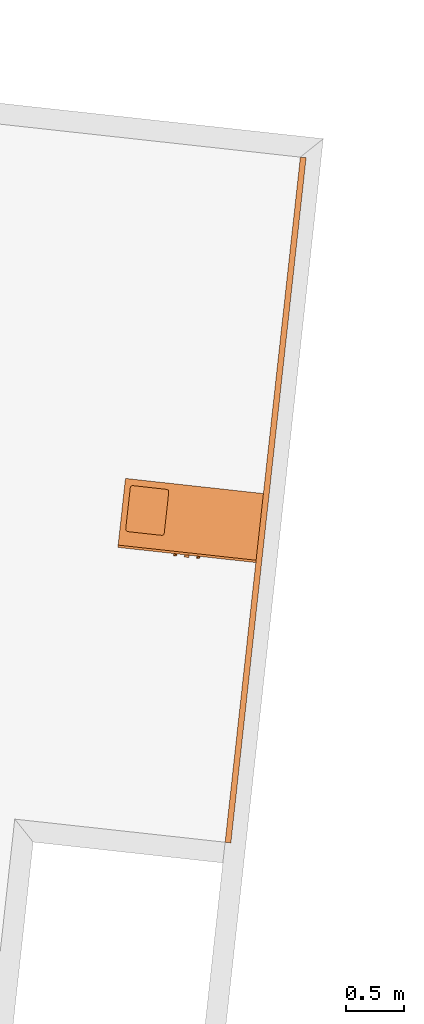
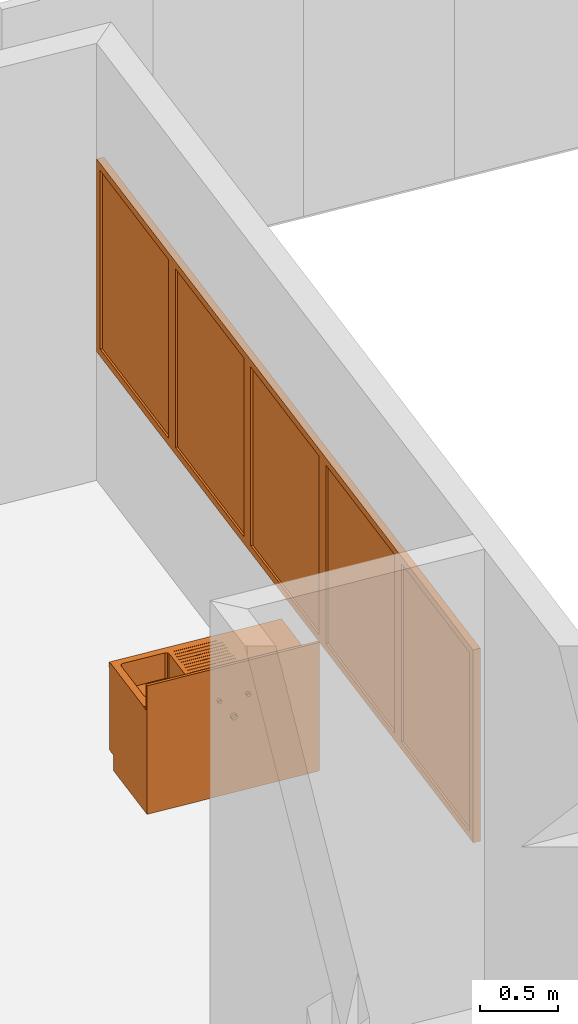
# One storey, part 48 of 52: 2 proxies.
"""IFC2X3 building model written with IfcOpenShell, lengths in metres."""

from ifc_helpers import new_model, entity, si_unit, converted_unit, derived_unit, money_unit, direction, frame, origin_with_axes, place, context, subcontext, project, spatial, open_shell, faceted_brep, surface_model, material, type_object, element, save


model = new_model("IFC2X3")

# Units and contexts
model_context = context("Model", 3, precision=1e-05, world=origin_with_axes(), true_north=direction((0.0, 1.0)))
body_context = subcontext(model_context, "Body", "Model", "MODEL_VIEW")
ifc_project = project(units=[si_unit("LENGTHUNIT", "METRE"), si_unit("AREAUNIT", "SQUARE_METRE"), si_unit("VOLUMEUNIT", "CUBIC_METRE"), converted_unit("PLANEANGLEUNIT", "DEGREE", entity("IfcPlaneAngleMeasure", 0.0174532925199), si_unit("PLANEANGLEUNIT", "RADIAN"), dimensions=[0, 0, 0, 0, 0, 0, 0]), money_unit("CHF"), converted_unit("TIMEUNIT", "Year", entity("IfcTimeMeasure", 31556926.0), si_unit("TIMEUNIT", "SECOND"), dimensions=[0, 0, 1, 0, 0, 0, 0]), si_unit("MASSUNIT", "GRAM", prefix="KILO"), si_unit("THERMODYNAMICTEMPERATUREUNIT", "DEGREE_CELSIUS"), si_unit("LUMINOUSINTENSITYUNIT", "LUMEN"), si_unit("ENERGYUNIT", "JOULE", prefix="MEGA"), derived_unit("THERMALCONDUCTANCEUNIT", [(si_unit("POWERUNIT", "WATT"), 1), (si_unit("LENGTHUNIT", "METRE"), -1), (si_unit("THERMODYNAMICTEMPERATUREUNIT", "KELVIN"), -1)]), derived_unit("SPECIFICHEATCAPACITYUNIT", [(si_unit("ENERGYUNIT", "JOULE"), 1), (si_unit("MASSUNIT", "GRAM", prefix="KILO"), -1), (si_unit("THERMODYNAMICTEMPERATUREUNIT", "KELVIN"), -1)]), derived_unit("MASSDENSITYUNIT", [(si_unit("MASSUNIT", "GRAM", prefix="KILO"), 1), (si_unit("VOLUMEUNIT", "CUBIC_METRE"), -1)])], contexts=[model_context])

# Site, building, storey
site_placement = place(None, frame((0.0, 0.0, 0.0), z_axis=(0.0, 0.0, 1.0), x_axis=(-0.177771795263, -0.984071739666, 0.0)))
site = spatial("IfcSite", under=ifc_project, at=site_placement, Name="Site", CompositionType="ELEMENT")
building_placement = place(site_placement, origin_with_axes())
building = spatial("IfcBuilding", under=site, at=building_placement, Name="Bâtiment", CompositionType="ELEMENT")
storey_placement = place(building_placement, frame((0.0, 0.0, 3.2), z_axis=(0.0, 0.0, 1.0), x_axis=(1.0, 0.0, 0.0)))
storey = spatial("IfcBuildingStorey", under=building, at=storey_placement, Name="R+1", CompositionType="ELEMENT", Elevation=3.2)

# Proxies
ifc_material = material(Name="Matériau de construction IFC")
building_element_proxy_type_1 = type_object("IfcBuildingElementProxyType", Name="Elément simple avec deux portes 21", PredefinedType="NOTDEFINED")
proxy_1_placement = place(storey_placement, frame((102.710690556, -150.00629147, 0.0), z_axis=(0.0, 0.0, 1.0), x_axis=(0.0692341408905, -0.997600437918, 0.0)))
element("IfcBuildingElementProxy", 1, at=proxy_1_placement, inside=storey, type_object=building_element_proxy_type_1, material=ifc_material, Name="evier-maitres", context=body_context, shape_type="SurfaceModel", body=[
    surface_model("IfcShellBasedSurfaceModel", [(-0.5, 0.600000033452, 0.733), (-0.5, 0.620000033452, 0.733), (-0.496505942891, 0.620000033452, 0.733460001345), (-0.496505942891, 0.600000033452, 0.733460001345), (-0.503494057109, 0.600000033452, 0.733460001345), (-0.503494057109, 0.620000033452, 0.733460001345), (-0.49325, 0.620000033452, 0.734808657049), (-0.49325, 0.600000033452, 0.734808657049), (-0.50675, 0.600000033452, 0.734808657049), (-0.50675, 0.620000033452, 0.734808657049), (-0.490454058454, 0.620000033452, 0.736954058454), (-0.490454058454, 0.600000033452, 0.736954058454), (-0.509545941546, 0.600000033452, 0.736954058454), (-0.509545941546, 0.620000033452, 0.736954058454), (-0.488308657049, 0.620000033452, 0.73975), (-0.488308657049, 0.600000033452, 0.73975), (-0.511691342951, 0.600000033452, 0.73975), (-0.511691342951, 0.620000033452, 0.73975), (-0.486960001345, 0.620000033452, 0.743005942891), (-0.486960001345, 0.600000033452, 0.743005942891), (-0.513039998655, 0.600000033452, 0.743005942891), (-0.513039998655, 0.620000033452, 0.743005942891), (-0.4865, 0.620000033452, 0.7465), (-0.4865, 0.600000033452, 0.7465), (-0.5135, 0.600000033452, 0.7465), (-0.5135, 0.620000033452, 0.7465), (-0.486960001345, 0.620000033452, 0.749994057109), (-0.486960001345, 0.600000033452, 0.749994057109), (-0.513039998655, 0.600000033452, 0.749994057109), (-0.513039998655, 0.620000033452, 0.749994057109), (-0.488308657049, 0.620000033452, 0.75325), (-0.488308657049, 0.600000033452, 0.75325), (-0.511691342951, 0.600000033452, 0.75325), (-0.511691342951, 0.620000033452, 0.75325), (-0.490454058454, 0.620000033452, 0.756045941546), (-0.490454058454, 0.600000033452, 0.756045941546), (-0.509545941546, 0.600000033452, 0.756045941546), (-0.509545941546, 0.620000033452, 0.756045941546), (-0.49325, 0.620000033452, 0.758191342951), (-0.49325, 0.600000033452, 0.758191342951), (-0.50675, 0.600000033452, 0.758191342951), (-0.50675, 0.620000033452, 0.758191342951), (-0.496505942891, 0.620000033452, 0.759539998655), (-0.496505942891, 0.600000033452, 0.759539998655), (-0.503494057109, 0.600000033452, 0.759539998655), (-0.503494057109, 0.620000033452, 0.759539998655), (-0.5, 0.620000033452, 0.76), (-0.5, 0.600000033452, 0.76)], [open_shell([[[0, 1, 2, 3]], [[4, 5, 1, 0]], [[3, 2, 6, 7]], [[8, 9, 5, 4]], [[7, 6, 10, 11]], [[12, 13, 9, 8]], [[11, 10, 14, 15]], [[16, 17, 13, 12]], [[15, 14, 18, 19]], [[20, 21, 17, 16]], [[19, 18, 22, 23]], [[24, 25, 21, 20]], [[23, 22, 26, 27]], [[28, 29, 25, 24]], [[27, 26, 30, 31]], [[32, 33, 29, 28]], [[31, 30, 34, 35]], [[36, 37, 33, 32]], [[35, 34, 38, 39]], [[40, 41, 37, 36]], [[39, 38, 42, 43]], [[44, 45, 41, 40]], [[43, 42, 46, 47]], [[47, 46, 45, 44]]])]),
    surface_model("IfcShellBasedSurfaceModel", [(-0.7, 0.600000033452, 0.733), (-0.7, 0.620000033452, 0.733), (-0.696505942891, 0.620000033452, 0.733460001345), (-0.696505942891, 0.600000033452, 0.733460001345), (-0.703494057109, 0.600000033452, 0.733460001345), (-0.703494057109, 0.620000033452, 0.733460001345), (-0.69325, 0.620000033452, 0.734808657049), (-0.69325, 0.600000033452, 0.734808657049), (-0.70675, 0.600000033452, 0.734808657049), (-0.70675, 0.620000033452, 0.734808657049), (-0.690454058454, 0.620000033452, 0.736954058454), (-0.690454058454, 0.600000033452, 0.736954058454), (-0.709545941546, 0.600000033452, 0.736954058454), (-0.709545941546, 0.620000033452, 0.736954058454), (-0.688308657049, 0.620000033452, 0.73975), (-0.688308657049, 0.600000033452, 0.73975), (-0.711691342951, 0.600000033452, 0.73975), (-0.711691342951, 0.620000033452, 0.73975), (-0.686960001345, 0.620000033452, 0.743005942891), (-0.686960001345, 0.600000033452, 0.743005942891), (-0.713039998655, 0.600000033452, 0.743005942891), (-0.713039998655, 0.620000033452, 0.743005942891), (-0.6865, 0.620000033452, 0.7465), (-0.6865, 0.600000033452, 0.7465), (-0.7135, 0.600000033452, 0.7465), (-0.7135, 0.620000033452, 0.7465), (-0.686960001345, 0.620000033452, 0.749994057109), (-0.686960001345, 0.600000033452, 0.749994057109), (-0.713039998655, 0.600000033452, 0.749994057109), (-0.713039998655, 0.620000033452, 0.749994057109), (-0.688308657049, 0.620000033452, 0.75325), (-0.688308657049, 0.600000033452, 0.75325), (-0.711691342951, 0.600000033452, 0.75325), (-0.711691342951, 0.620000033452, 0.75325), (-0.690454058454, 0.620000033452, 0.756045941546), (-0.690454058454, 0.600000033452, 0.756045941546), (-0.709545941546, 0.600000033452, 0.756045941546), (-0.709545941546, 0.620000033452, 0.756045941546), (-0.69325, 0.620000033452, 0.758191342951), (-0.69325, 0.600000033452, 0.758191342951), (-0.70675, 0.600000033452, 0.758191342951), (-0.70675, 0.620000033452, 0.758191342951), (-0.696505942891, 0.620000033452, 0.759539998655), (-0.696505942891, 0.600000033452, 0.759539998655), (-0.703494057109, 0.600000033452, 0.759539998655), (-0.703494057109, 0.620000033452, 0.759539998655), (-0.7, 0.620000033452, 0.76), (-0.7, 0.600000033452, 0.76)], [open_shell([[[0, 1, 2, 3]], [[4, 5, 1, 0]], [[3, 2, 6, 7]], [[8, 9, 5, 4]], [[7, 6, 10, 11]], [[12, 13, 9, 8]], [[11, 10, 14, 15]], [[16, 17, 13, 12]], [[15, 14, 18, 19]], [[20, 21, 17, 16]], [[19, 18, 22, 23]], [[24, 25, 21, 20]], [[23, 22, 26, 27]], [[28, 29, 25, 24]], [[27, 26, 30, 31]], [[32, 33, 29, 28]], [[31, 30, 34, 35]], [[36, 37, 33, 32]], [[35, 34, 38, 39]], [[40, 41, 37, 36]], [[39, 38, 42, 43]], [[44, 45, 41, 40]], [[43, 42, 46, 47]], [[47, 46, 45, 44]]])]),
    surface_model("IfcShellBasedSurfaceModel", [(-0.6, 0.600000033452, 0.579), (-0.6, 0.620000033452, 0.579), (-0.594564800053, 0.620000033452, 0.579715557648), (-0.594564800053, 0.600000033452, 0.579715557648), (-0.605435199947, 0.600000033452, 0.579715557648), (-0.605435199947, 0.620000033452, 0.579715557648), (-0.5895, 0.620000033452, 0.581813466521), (-0.5895, 0.600000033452, 0.581813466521), (-0.6105, 0.600000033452, 0.581813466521), (-0.6105, 0.620000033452, 0.581813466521), (-0.585150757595, 0.620000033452, 0.585150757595), (-0.585150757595, 0.600000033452, 0.585150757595), (-0.614849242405, 0.600000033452, 0.585150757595), (-0.614849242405, 0.620000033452, 0.585150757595), (-0.581813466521, 0.620000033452, 0.5895), (-0.581813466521, 0.600000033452, 0.5895), (-0.618186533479, 0.600000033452, 0.5895), (-0.618186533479, 0.620000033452, 0.5895), (-0.579715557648, 0.620000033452, 0.594564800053), (-0.579715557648, 0.600000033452, 0.594564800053), (-0.620284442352, 0.600000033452, 0.594564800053), (-0.620284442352, 0.620000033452, 0.594564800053), (-0.579, 0.620000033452, 0.6), (-0.579, 0.600000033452, 0.6), (-0.621, 0.600000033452, 0.6), (-0.621, 0.620000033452, 0.6), (-0.579715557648, 0.620000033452, 0.605435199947), (-0.579715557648, 0.600000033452, 0.605435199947), (-0.620284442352, 0.600000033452, 0.605435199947), (-0.620284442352, 0.620000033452, 0.605435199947), (-0.581813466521, 0.620000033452, 0.6105), (-0.581813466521, 0.600000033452, 0.6105), (-0.618186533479, 0.600000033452, 0.6105), (-0.618186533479, 0.620000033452, 0.6105), (-0.585150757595, 0.620000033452, 0.614849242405), (-0.585150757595, 0.600000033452, 0.614849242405), (-0.614849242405, 0.600000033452, 0.614849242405), (-0.614849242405, 0.620000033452, 0.614849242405), (-0.5895, 0.620000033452, 0.618186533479), (-0.5895, 0.600000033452, 0.618186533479), (-0.6105, 0.600000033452, 0.618186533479), (-0.6105, 0.620000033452, 0.618186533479), (-0.594564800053, 0.620000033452, 0.620284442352), (-0.594564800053, 0.600000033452, 0.620284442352), (-0.605435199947, 0.600000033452, 0.620284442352), (-0.605435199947, 0.620000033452, 0.620284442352), (-0.6, 0.620000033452, 0.621), (-0.6, 0.600000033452, 0.621)], [open_shell([[[0, 1, 2, 3]], [[4, 5, 1, 0]], [[3, 2, 6, 7]], [[8, 9, 5, 4]], [[7, 6, 10, 11]], [[12, 13, 9, 8]], [[11, 10, 14, 15]], [[16, 17, 13, 12]], [[15, 14, 18, 19]], [[20, 21, 17, 16]], [[19, 18, 22, 23]], [[24, 25, 21, 20]], [[23, 22, 26, 27]], [[28, 29, 25, 24]], [[27, 26, 30, 31]], [[32, 33, 29, 28]], [[31, 30, 34, 35]], [[36, 37, 33, 32]], [[35, 34, 38, 39]], [[40, 41, 37, 36]], [[39, 38, 42, 43]], [[44, 45, 41, 40]], [[43, 42, 46, 47]], [[47, 46, 45, 44]]])]),
    faceted_brep([(0.0, 0.07, 0.0), (0.0, 0.07, 0.12), (-1.2, 0.07, 0.12), (-1.2, 0.07, 0.0), (0.0, 0.600000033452, 0.0), (0.0, 0.600000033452, 0.12), (-1.2, 0.600000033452, 0.12), (-1.2, 0.600000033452, 0.0)], [[[0, 1, 2, 3]], [[4, 5, 1, 0]], [[1, 5, 6, 2]], [[3, 2, 6, 7]], [[0, 3, 7, 4]], [[7, 6, 5, 4]]]),
    faceted_brep([(0.0, 0.02, 0.12), (0.0, 0.02, 0.14), (-0.02, 0.02, 0.14), (-0.02, 0.02, 0.12), (0.0, 0.600000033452, 0.12), (0.0, 0.600000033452, 0.14), (-0.02, 0.600000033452, 0.14), (-1.18, 0.600000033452, 0.14), (-1.2, 0.600000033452, 0.14), (-1.2, 0.02, 0.14), (-1.18, 0.02, 0.14), (-1.18, 0.02, 0.12), (-1.2, 0.02, 0.12), (-1.2, 0.600000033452, 0.12), (-1.18, 0.600000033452, 0.12), (-0.02, 0.600000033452, 0.12)], [[[0, 1, 2, 3]], [[4, 5, 1, 0]], [[1, 5, 6, 7, 8, 9, 10, 2]], [[3, 2, 10, 11]], [[0, 3, 11, 12, 13, 14, 15, 4]], [[15, 6, 5, 4]], [[14, 7, 6, 15]], [[13, 8, 7, 14]], [[12, 9, 8, 13]], [[11, 10, 9, 12]]]),
    faceted_brep([(0.0, 0.02, 0.14), (0.0, 0.02, 0.76), (-0.02, 0.02, 0.76), (-0.02, 0.02, 0.14), (0.0, 0.600000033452, 0.14), (0.0, 0.600000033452, 0.76), (-1.2, 0.600000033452, 0.76), (-1.2, 0.02, 0.76), (-1.18, 0.02, 0.76), (-1.18, 0.580000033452, 0.76), (-0.02, 0.580000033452, 0.76), (-0.02, 0.580000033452, 0.14), (-1.18, 0.580000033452, 0.14), (-1.18, 0.02, 0.14), (-1.2, 0.02, 0.14), (-1.2, 0.600000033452, 0.14)], [[[0, 1, 2, 3]], [[4, 5, 1, 0]], [[1, 5, 6, 7, 8, 9, 10, 2]], [[3, 2, 10, 11]], [[0, 3, 11, 12, 13, 14, 15, 4]], [[15, 6, 5, 4]], [[14, 7, 6, 15]], [[13, 8, 7, 14]], [[12, 9, 8, 13]], [[11, 10, 9, 12]]]),
    faceted_brep([(-1.18, 0.02, 0.41), (-1.18, 0.02, 0.43), (-1.18, 0.580000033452, 0.43), (-1.18, 0.580000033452, 0.41), (-0.02, 0.02, 0.41), (-0.02, 0.02, 0.43), (-0.02, 0.580000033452, 0.43), (-0.02, 0.580000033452, 0.41)], [[[0, 1, 2, 3]], [[4, 5, 1, 0]], [[1, 5, 6, 2]], [[3, 2, 6, 7]], [[0, 3, 7, 4]], [[7, 6, 5, 4]]]),
    surface_model("IfcShellBasedSurfaceModel", [(-0.07, 0.0550000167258, 0.605), (-0.07, 0.0550000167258, 0.8), (-0.365, 0.0550000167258, 0.8), (-0.365, 0.0550000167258, 0.605), (-0.06, 0.0576795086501, 0.605), (-0.06, 0.0576795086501, 0.8), (-0.379142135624, 0.0608578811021, 0.8), (-0.379142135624, 0.0608578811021, 0.605), (-0.385, 0.0750000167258, 0.605), (-0.385, 0.435000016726, 0.605), (-0.382320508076, 0.445000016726, 0.605), (-0.375, 0.452320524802, 0.605), (-0.365, 0.455000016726, 0.605), (-0.07, 0.455000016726, 0.605), (-0.06, 0.452320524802, 0.605), (-0.0526794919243, 0.445000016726, 0.605), (-0.05, 0.435000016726, 0.605), (-0.05, 0.0750000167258, 0.605), (-0.0526794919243, 0.0650000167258, 0.605), (-0.0526794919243, 0.0650000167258, 0.8), (-0.385, 0.0750000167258, 0.8), (-0.385, 0.435000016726, 0.8), (-0.382320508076, 0.445000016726, 0.8), (-0.375, 0.452320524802, 0.8), (-0.365, 0.455000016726, 0.8), (-0.07, 0.455000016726, 0.8), (-0.06, 0.452320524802, 0.8), (-0.0526794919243, 0.445000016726, 0.8), (-0.05, 0.435000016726, 0.8), (-0.05, 0.0750000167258, 0.8)], [open_shell([[[0, 1, 2, 3]], [[4, 5, 1, 0]], [[3, 2, 6, 7]], [[0, 3, 7, 8, 9, 10, 11, 12, 13, 14, 15, 16, 17, 18, 4]], [[18, 19, 5, 4]], [[7, 6, 20, 8]], [[8, 20, 21, 9]], [[9, 21, 22, 10]], [[10, 22, 23, 11]], [[11, 23, 24, 12]], [[12, 24, 25, 13]], [[13, 25, 26, 14]], [[14, 26, 27, 15]], [[15, 27, 28, 16]], [[16, 28, 29, 17]], [[17, 29, 19, 18]]])]),
    faceted_brep([(-0.02, 0.00500001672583, 0.8), (-0.02, 0.00500001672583, 0.805), (-0.78, 0.00500001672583, 0.805), (-0.78, 0.00500001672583, 0.8), (-0.00999999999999, 0.00767950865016, 0.8), (-0.00999999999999, 0.00767950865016, 0.805), (-0.00267949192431, 0.0150000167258, 0.805), (0.0, 0.0250000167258, 0.805), (0.0, 0.535000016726, 0.805), (-0.00267949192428, 0.545000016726, 0.805), (-0.01, 0.552320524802, 0.805), (-0.02, 0.555000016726, 0.805), (-0.78, 0.555000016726, 0.805), (-0.79, 0.552320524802, 0.805), (-0.797320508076, 0.545000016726, 0.805), (-0.8, 0.535000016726, 0.805), (-0.8, 0.0250000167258, 0.805), (-0.794142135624, 0.0108578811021, 0.805), (-0.07, 0.0550000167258, 0.805), (-0.365, 0.0550000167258, 0.805), (-0.379142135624, 0.0608578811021, 0.805), (-0.385, 0.0750000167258, 0.805), (-0.385, 0.435000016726, 0.805), (-0.382320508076, 0.445000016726, 0.805), (-0.375, 0.452320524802, 0.805), (-0.365, 0.455000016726, 0.805), (-0.07, 0.455000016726, 0.805), (-0.06, 0.452320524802, 0.805), (-0.0526794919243, 0.445000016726, 0.805), (-0.05, 0.435000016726, 0.805), (-0.05, 0.0750000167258, 0.805), (-0.0526794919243, 0.0650000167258, 0.805), (-0.06, 0.0576795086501, 0.805), (-0.794142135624, 0.0108578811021, 0.8), (-0.8, 0.0250000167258, 0.8), (-0.8, 0.535000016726, 0.8), (-0.797320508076, 0.545000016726, 0.8), (-0.79, 0.552320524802, 0.8), (-0.78, 0.555000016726, 0.8), (-0.02, 0.555000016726, 0.8), (-0.01, 0.552320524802, 0.8), (-0.00267949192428, 0.545000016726, 0.8), (0.0, 0.535000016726, 0.8), (0.0, 0.0250000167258, 0.8), (-0.00267949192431, 0.0150000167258, 0.8), (-0.07, 0.0550000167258, 0.8), (-0.06, 0.0576795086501, 0.8), (-0.0526794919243, 0.0650000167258, 0.8), (-0.05, 0.0750000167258, 0.8), (-0.05, 0.435000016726, 0.8), (-0.0526794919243, 0.445000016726, 0.8), (-0.06, 0.452320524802, 0.8), (-0.07, 0.455000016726, 0.8), (-0.365, 0.455000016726, 0.8), (-0.375, 0.452320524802, 0.8), (-0.382320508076, 0.445000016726, 0.8), (-0.385, 0.435000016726, 0.8), (-0.385, 0.0750000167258, 0.8), (-0.379142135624, 0.0608578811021, 0.8), (-0.365, 0.0550000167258, 0.8)], [[[0, 1, 2, 3]], [[4, 5, 1, 0]], [[1, 5, 6, 7, 8, 9, 10, 11, 12, 13, 14, 15, 16, 17, 2], [18, 19, 20, 21, 22, 23, 24, 25, 26, 27, 28, 29, 30, 31, 32]], [[3, 2, 17, 33]], [[0, 3, 33, 34, 35, 36, 37, 38, 39, 40, 41, 42, 43, 44, 4], [45, 46, 47, 48, 49, 50, 51, 52, 53, 54, 55, 56, 57, 58, 59]], [[44, 6, 5, 4]], [[43, 7, 6, 44]], [[42, 8, 7, 43]], [[41, 9, 8, 42]], [[40, 10, 9, 41]], [[39, 11, 10, 40]], [[38, 12, 11, 39]], [[37, 13, 12, 38]], [[36, 14, 13, 37]], [[35, 15, 14, 36]], [[34, 16, 15, 35]], [[33, 17, 16, 34]], [[59, 19, 18, 45]], [[58, 20, 19, 59]], [[57, 21, 20, 58]], [[56, 22, 21, 57]], [[55, 23, 22, 56]], [[54, 24, 23, 55]], [[53, 25, 24, 54]], [[52, 26, 25, 53]], [[51, 27, 26, 52]], [[50, 28, 27, 51]], [[49, 29, 28, 50]], [[48, 30, 29, 49]], [[47, 31, 30, 48]], [[46, 32, 31, 47]], [[45, 18, 32, 46]]]),
    faceted_brep([(-0.415, 0.0600000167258, 0.805), (-0.415, 0.0600000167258, 0.807), (-0.72, 0.0600000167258, 0.807), (-0.72, 0.0600000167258, 0.805), (-0.415, 0.0650000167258, 0.805), (-0.415, 0.0650000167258, 0.807), (-0.72, 0.0650000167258, 0.807), (-0.72, 0.0650000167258, 0.805)], [[[0, 1, 2, 3]], [[4, 5, 1, 0]], [[1, 5, 6, 2]], [[3, 2, 6, 7]], [[0, 3, 7, 4]], [[7, 6, 5, 4]]]),
    faceted_brep([(-0.415, 0.0925000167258, 0.805), (-0.415, 0.0925000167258, 0.807), (-0.75, 0.0925000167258, 0.807), (-0.75, 0.0925000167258, 0.805), (-0.415, 0.0975000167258, 0.805), (-0.415, 0.0975000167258, 0.807), (-0.75, 0.0975000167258, 0.807), (-0.75, 0.0975000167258, 0.805)], [[[0, 1, 2, 3]], [[4, 5, 1, 0]], [[1, 5, 6, 2]], [[3, 2, 6, 7]], [[0, 3, 7, 4]], [[7, 6, 5, 4]]]),
    faceted_brep([(-0.415, 0.125000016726, 0.805), (-0.415, 0.125000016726, 0.807), (-0.75, 0.125000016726, 0.807), (-0.75, 0.125000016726, 0.805), (-0.415, 0.130000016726, 0.805), (-0.415, 0.130000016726, 0.807), (-0.75, 0.130000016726, 0.807), (-0.75, 0.130000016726, 0.805)], [[[0, 1, 2, 3]], [[4, 5, 1, 0]], [[1, 5, 6, 2]], [[3, 2, 6, 7]], [[0, 3, 7, 4]], [[7, 6, 5, 4]]]),
    faceted_brep([(-0.415, 0.157500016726, 0.805), (-0.415, 0.157500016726, 0.807), (-0.75, 0.157500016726, 0.807), (-0.75, 0.157500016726, 0.805), (-0.415, 0.162500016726, 0.805), (-0.415, 0.162500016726, 0.807), (-0.75, 0.162500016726, 0.807), (-0.75, 0.162500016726, 0.805)], [[[0, 1, 2, 3]], [[4, 5, 1, 0]], [[1, 5, 6, 2]], [[3, 2, 6, 7]], [[0, 3, 7, 4]], [[7, 6, 5, 4]]]),
    faceted_brep([(-0.415, 0.190000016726, 0.805), (-0.415, 0.190000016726, 0.807), (-0.75, 0.190000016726, 0.807), (-0.75, 0.190000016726, 0.805), (-0.415, 0.195000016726, 0.805), (-0.415, 0.195000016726, 0.807), (-0.75, 0.195000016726, 0.807), (-0.75, 0.195000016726, 0.805)], [[[0, 1, 2, 3]], [[4, 5, 1, 0]], [[1, 5, 6, 2]], [[3, 2, 6, 7]], [[0, 3, 7, 4]], [[7, 6, 5, 4]]]),
    faceted_brep([(-0.415, 0.222500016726, 0.805), (-0.415, 0.222500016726, 0.807), (-0.75, 0.222500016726, 0.807), (-0.75, 0.222500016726, 0.805), (-0.415, 0.227500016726, 0.805), (-0.415, 0.227500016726, 0.807), (-0.75, 0.227500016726, 0.807), (-0.75, 0.227500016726, 0.805)], [[[0, 1, 2, 3]], [[4, 5, 1, 0]], [[1, 5, 6, 2]], [[3, 2, 6, 7]], [[0, 3, 7, 4]], [[7, 6, 5, 4]]]),
    faceted_brep([(-0.415, 0.255000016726, 0.805), (-0.415, 0.255000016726, 0.807), (-0.75, 0.255000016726, 0.807), (-0.75, 0.255000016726, 0.805), (-0.415, 0.260000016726, 0.805), (-0.415, 0.260000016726, 0.807), (-0.75, 0.260000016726, 0.807), (-0.75, 0.260000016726, 0.805)], [[[0, 1, 2, 3]], [[4, 5, 1, 0]], [[1, 5, 6, 2]], [[3, 2, 6, 7]], [[0, 3, 7, 4]], [[7, 6, 5, 4]]]),
    faceted_brep([(-0.415, 0.287500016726, 0.805), (-0.415, 0.287500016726, 0.807), (-0.75, 0.287500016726, 0.807), (-0.75, 0.287500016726, 0.805), (-0.415, 0.292500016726, 0.805), (-0.415, 0.292500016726, 0.807), (-0.75, 0.292500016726, 0.807), (-0.75, 0.292500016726, 0.805)], [[[0, 1, 2, 3]], [[4, 5, 1, 0]], [[1, 5, 6, 2]], [[3, 2, 6, 7]], [[0, 3, 7, 4]], [[7, 6, 5, 4]]]),
    faceted_brep([(-0.415, 0.320000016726, 0.805), (-0.415, 0.320000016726, 0.807), (-0.75, 0.320000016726, 0.807), (-0.75, 0.320000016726, 0.805), (-0.415, 0.325000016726, 0.805), (-0.415, 0.325000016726, 0.807), (-0.75, 0.325000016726, 0.807), (-0.75, 0.325000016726, 0.805)], [[[0, 1, 2, 3]], [[4, 5, 1, 0]], [[1, 5, 6, 2]], [[3, 2, 6, 7]], [[0, 3, 7, 4]], [[7, 6, 5, 4]]]),
    faceted_brep([(-0.415, 0.352500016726, 0.805), (-0.415, 0.352500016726, 0.807), (-0.75, 0.352500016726, 0.807), (-0.75, 0.352500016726, 0.805), (-0.415, 0.357500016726, 0.805), (-0.415, 0.357500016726, 0.807), (-0.75, 0.357500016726, 0.807), (-0.75, 0.357500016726, 0.805)], [[[0, 1, 2, 3]], [[4, 5, 1, 0]], [[1, 5, 6, 2]], [[3, 2, 6, 7]], [[0, 3, 7, 4]], [[7, 6, 5, 4]]]),
    faceted_brep([(-0.415, 0.385000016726, 0.805), (-0.415, 0.385000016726, 0.807), (-0.75, 0.385000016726, 0.807), (-0.75, 0.385000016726, 0.805), (-0.415, 0.390000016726, 0.805), (-0.415, 0.390000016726, 0.807), (-0.75, 0.390000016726, 0.807), (-0.75, 0.390000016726, 0.805)], [[[0, 1, 2, 3]], [[4, 5, 1, 0]], [[1, 5, 6, 2]], [[3, 2, 6, 7]], [[0, 3, 7, 4]], [[7, 6, 5, 4]]]),
    faceted_brep([(-0.415, 0.417500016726, 0.805), (-0.415, 0.417500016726, 0.807), (-0.75, 0.417500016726, 0.807), (-0.75, 0.417500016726, 0.805), (-0.415, 0.422500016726, 0.805), (-0.415, 0.422500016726, 0.807), (-0.75, 0.422500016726, 0.807), (-0.75, 0.422500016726, 0.805)], [[[0, 1, 2, 3]], [[4, 5, 1, 0]], [[1, 5, 6, 2]], [[3, 2, 6, 7]], [[0, 3, 7, 4]], [[7, 6, 5, 4]]]),
    faceted_brep([(-0.415, 0.450000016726, 0.805), (-0.415, 0.450000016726, 0.807), (-0.72, 0.450000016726, 0.807), (-0.72, 0.450000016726, 0.805), (-0.415, 0.455000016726, 0.805), (-0.415, 0.455000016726, 0.807), (-0.72, 0.455000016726, 0.807), (-0.72, 0.455000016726, 0.805)], [[[0, 1, 2, 3]], [[4, 5, 1, 0]], [[1, 5, 6, 2]], [[3, 2, 6, 7]], [[0, 3, 7, 4]], [[7, 6, 5, 4]]]),
    faceted_brep([(0.0, 0.0, 0.76), (0.0, 0.0, 0.8), (-1.2, 0.0, 0.8), (-1.2, 0.0, 0.76), (0.0, 0.600000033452, 0.76), (0.0, 0.600000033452, 0.8), (-1.2, 0.600000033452, 0.8), (-0.025, 0.0500000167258, 0.8), (-0.775, 0.0500000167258, 0.8), (-0.775, 0.535000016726, 0.8), (-0.025, 0.535000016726, 0.8), (-1.2, 0.600000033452, 0.76), (-0.025, 0.0500000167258, 0.76), (-0.025, 0.535000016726, 0.76), (-0.775, 0.535000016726, 0.76), (-0.775, 0.0500000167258, 0.76)], [[[0, 1, 2, 3]], [[4, 5, 1, 0]], [[1, 5, 6, 2], [7, 8, 9, 10]], [[3, 2, 6, 11]], [[0, 3, 11, 4], [12, 13, 14, 15]], [[11, 6, 5, 4]], [[15, 8, 7, 12]], [[14, 9, 8, 15]], [[13, 10, 9, 14]], [[12, 7, 10, 13]]]),
    faceted_brep([(0.0, 0.580000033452, 0.8), (0.0, 0.580000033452, 1.0), (-1.2, 0.580000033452, 1.0), (-1.2, 0.580000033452, 0.8), (0.0, 0.600000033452, 0.8), (0.0, 0.600000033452, 1.0), (-1.2, 0.600000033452, 1.0), (-1.2, 0.600000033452, 0.8)], [[[0, 1, 2, 3]], [[4, 5, 1, 0]], [[1, 5, 6, 2]], [[3, 2, 6, 7]], [[0, 3, 7, 4]], [[7, 6, 5, 4]]]),
    faceted_brep([(-0.00149999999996, 0.02, 0.1215), (-0.00149999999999, 0.0, 0.1215), (-0.5985, 0.0, 0.1215), (-0.5985, 0.02, 0.1215), (-0.00149999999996, 0.02, 0.7585), (-0.00149999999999, 0.0, 0.7585), (-0.5985, 0.0, 0.7585), (-0.5985, 0.02, 0.7585)], [[[0, 1, 2, 3]], [[4, 5, 1, 0]], [[1, 5, 6, 2]], [[3, 2, 6, 7]], [[0, 3, 7, 4]], [[7, 6, 5, 4]]]),
    faceted_brep([(-1.1985, 0.02, 0.1215), (-0.6015, 0.02, 0.1215), (-0.6015, 0.0, 0.1215), (-1.1985, 0.0, 0.1215), (-1.1985, 0.02, 0.7585), (-0.6015, 0.02, 0.7585), (-0.6015, 0.0, 0.7585), (-1.1985, 0.0, 0.7585)], [[[0, 1, 2, 3]], [[0, 4, 5, 1]], [[1, 5, 6, 2]], [[3, 2, 6, 7]], [[4, 0, 3, 7]], [[5, 4, 7, 6]]]),
])
building_element_proxy_type_2 = type_object("IfcBuildingElementProxyType", Name="Fenêtre horizontale à châssis multiples 21", PredefinedType="NOTDEFINED")
proxy_2_placement = place(storey_placement, frame((99.6953772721, -148.832342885, 1.0), z_axis=(0.0, 0.0, 1.0), x_axis=(0.997598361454, 0.0692640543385, 0.0)))
element("IfcBuildingElementProxy", 2, at=proxy_2_placement, inside=storey, type_object=building_element_proxy_type_2, material=ifc_material, Name="45", context=body_context, shape_type="SurfaceModel", body=[
    faceted_brep([(5.90462597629, -0.18, 1.445), (5.95962597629, -0.18, 1.445), (5.95962597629, -0.13, 1.445), (5.90462597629, -0.13, 1.445), (5.90462597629, -0.18, 0.055), (5.95962597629, -0.18, 0.055), (5.95962597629, -0.13, 0.055), (5.90462597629, -0.13, 0.055)], [[[0, 1, 2, 3]], [[0, 4, 5, 1]], [[1, 5, 6, 2]], [[3, 2, 6, 7]], [[4, 0, 3, 7]], [[5, 4, 7, 6]]]),
    faceted_brep([(0.055, -0.18, 0.055), (0.0, -0.18, 0.055), (0.0, -0.13, 0.055), (0.055, -0.13, 0.055), (0.055, -0.18, 1.445), (0.0, -0.18, 1.445), (0.0, -0.13, 1.445), (0.055, -0.13, 1.445)], [[[0, 1, 2, 3]], [[0, 4, 5, 1]], [[1, 5, 6, 2]], [[3, 2, 6, 7]], [[4, 0, 3, 7]], [[5, 4, 7, 6]]]),
    faceted_brep([(0.055, -0.18, 1.445), (0.0, -0.18, 1.445), (0.0, -0.13, 1.445), (0.055, -0.13, 1.445), (1.13692519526, -0.18, 1.445), (1.24692519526, -0.18, 1.445), (2.32885039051, -0.18, 1.445), (2.43885039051, -0.18, 1.445), (3.52077558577, -0.18, 1.445), (3.63077558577, -0.18, 1.445), (4.71270078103, -0.18, 1.445), (4.82270078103, -0.18, 1.445), (5.90462597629, -0.18, 1.445), (5.95962597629, -0.18, 1.445), (5.95962597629, -0.18, 1.5), (0.0, -0.18, 1.5), (0.0, -0.13, 1.5), (5.95962597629, -0.13, 1.5), (5.95962597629, -0.13, 1.445), (5.90462597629, -0.13, 1.445), (4.82270078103, -0.13, 1.445), (4.71270078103, -0.13, 1.445), (3.63077558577, -0.13, 1.445), (3.52077558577, -0.13, 1.445), (2.43885039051, -0.13, 1.445), (2.32885039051, -0.13, 1.445), (1.24692519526, -0.13, 1.445), (1.13692519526, -0.13, 1.445)], [[[0, 1, 2, 3]], [[0, 4, 5, 6, 7, 8, 9, 10, 11, 12, 13, 14, 15, 1]], [[1, 15, 16, 2]], [[3, 2, 16, 17, 18, 19, 20, 21, 22, 23, 24, 25, 26, 27]], [[4, 0, 3, 27]], [[5, 4, 27, 26]], [[6, 5, 26, 25]], [[7, 6, 25, 24]], [[8, 7, 24, 23]], [[9, 8, 23, 22]], [[10, 9, 22, 21]], [[11, 10, 21, 20]], [[12, 11, 20, 19]], [[13, 12, 19, 18]], [[14, 13, 18, 17]], [[15, 14, 17, 16]]]),
    faceted_brep([(1.13692519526, -0.18, 0.055), (1.24692519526, -0.18, 0.055), (1.24692519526, -0.13, 0.055), (1.13692519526, -0.13, 0.055), (0.055, -0.18, 0.055), (0.0, -0.18, 0.055), (0.0, -0.18, 0.0), (5.95962597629, -0.18, 0.0), (5.95962597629, -0.18, 0.055), (5.90462597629, -0.18, 0.055), (4.82270078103, -0.18, 0.055), (4.71270078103, -0.18, 0.055), (3.63077558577, -0.18, 0.055), (3.52077558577, -0.18, 0.055), (2.43885039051, -0.18, 0.055), (2.32885039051, -0.18, 0.055), (2.32885039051, -0.13, 0.055), (2.43885039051, -0.13, 0.055), (3.52077558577, -0.13, 0.055), (3.63077558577, -0.13, 0.055), (4.71270078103, -0.13, 0.055), (4.82270078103, -0.13, 0.055), (5.90462597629, -0.13, 0.055), (5.95962597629, -0.13, 0.055), (5.95962597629, -0.13, 0.0), (0.0, -0.13, 0.0), (0.0, -0.13, 0.055), (0.055, -0.13, 0.055)], [[[0, 1, 2, 3]], [[0, 4, 5, 6, 7, 8, 9, 10, 11, 12, 13, 14, 15, 1]], [[1, 15, 16, 2]], [[3, 2, 16, 17, 18, 19, 20, 21, 22, 23, 24, 25, 26, 27]], [[4, 0, 3, 27]], [[5, 4, 27, 26]], [[6, 5, 26, 25]], [[7, 6, 25, 24]], [[8, 7, 24, 23]], [[9, 8, 23, 22]], [[10, 9, 22, 21]], [[11, 10, 21, 20]], [[12, 11, 20, 19]], [[13, 12, 19, 18]], [[14, 13, 18, 17]], [[15, 14, 17, 16]]]),
    faceted_brep([(4.71270078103, -0.18, 0.055), (4.71270078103, -0.18, 1.445), (4.71270078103, -0.13, 1.445), (4.71270078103, -0.13, 0.055), (4.82270078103, -0.18, 0.055), (4.82270078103, -0.18, 1.445), (4.82270078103, -0.13, 1.445), (4.82270078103, -0.13, 0.055)], [[[0, 1, 2, 3]], [[0, 4, 5, 1]], [[1, 5, 6, 2]], [[3, 2, 6, 7]], [[4, 0, 3, 7]], [[5, 4, 7, 6]]]),
    faceted_brep([(3.52077558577, -0.18, 0.055), (3.52077558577, -0.18, 1.445), (3.52077558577, -0.13, 1.445), (3.52077558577, -0.13, 0.055), (3.63077558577, -0.18, 0.055), (3.63077558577, -0.18, 1.445), (3.63077558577, -0.13, 1.445), (3.63077558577, -0.13, 0.055)], [[[0, 1, 2, 3]], [[0, 4, 5, 1]], [[1, 5, 6, 2]], [[3, 2, 6, 7]], [[4, 0, 3, 7]], [[5, 4, 7, 6]]]),
    faceted_brep([(2.32885039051, -0.18, 0.055), (2.32885039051, -0.18, 1.445), (2.32885039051, -0.13, 1.445), (2.32885039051, -0.13, 0.055), (2.43885039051, -0.18, 0.055), (2.43885039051, -0.18, 1.445), (2.43885039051, -0.13, 1.445), (2.43885039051, -0.13, 0.055)], [[[0, 1, 2, 3]], [[0, 4, 5, 1]], [[1, 5, 6, 2]], [[3, 2, 6, 7]], [[4, 0, 3, 7]], [[5, 4, 7, 6]]]),
    faceted_brep([(1.13692519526, -0.18, 0.055), (1.13692519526, -0.18, 1.445), (1.13692519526, -0.13, 1.445), (1.13692519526, -0.13, 0.055), (1.24692519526, -0.18, 0.055), (1.24692519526, -0.18, 1.445), (1.24692519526, -0.13, 1.445), (1.24692519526, -0.13, 0.055)], [[[0, 1, 2, 3]], [[0, 4, 5, 1]], [[1, 5, 6, 2]], [[3, 2, 6, 7]], [[4, 0, 3, 7]], [[5, 4, 7, 6]]]),
    surface_model("IfcShellBasedSurfaceModel", [(5.90462597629, -0.165, 0.055), (5.90462597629, -0.165, 1.445), (4.82270078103, -0.165, 1.445), (4.82270078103, -0.165, 0.055)], [open_shell([[[0, 1, 2, 3]]])]),
    surface_model("IfcShellBasedSurfaceModel", [(5.90462597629, -0.145, 0.055), (4.82270078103, -0.145, 0.055), (4.82270078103, -0.145, 1.445), (5.90462597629, -0.145, 1.445)], [open_shell([[[0, 1, 2, 3]]])]),
    surface_model("IfcShellBasedSurfaceModel", [(4.71270078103, -0.165, 0.055), (4.71270078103, -0.165, 1.445), (3.63077558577, -0.165, 1.445), (3.63077558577, -0.165, 0.055)], [open_shell([[[0, 1, 2, 3]]])]),
    surface_model("IfcShellBasedSurfaceModel", [(4.71270078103, -0.145, 0.055), (3.63077558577, -0.145, 0.055), (3.63077558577, -0.145, 1.445), (4.71270078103, -0.145, 1.445)], [open_shell([[[0, 1, 2, 3]]])]),
    surface_model("IfcShellBasedSurfaceModel", [(3.52077558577, -0.165, 0.055), (3.52077558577, -0.165, 1.445), (2.43885039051, -0.165, 1.445), (2.43885039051, -0.165, 0.055)], [open_shell([[[0, 1, 2, 3]]])]),
    surface_model("IfcShellBasedSurfaceModel", [(3.52077558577, -0.145, 0.055), (2.43885039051, -0.145, 0.055), (2.43885039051, -0.145, 1.445), (3.52077558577, -0.145, 1.445)], [open_shell([[[0, 1, 2, 3]]])]),
    surface_model("IfcShellBasedSurfaceModel", [(2.32885039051, -0.165, 0.055), (2.32885039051, -0.165, 1.445), (1.24692519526, -0.165, 1.445), (1.24692519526, -0.165, 0.055)], [open_shell([[[0, 1, 2, 3]]])]),
    surface_model("IfcShellBasedSurfaceModel", [(2.32885039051, -0.145, 0.055), (1.24692519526, -0.145, 0.055), (1.24692519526, -0.145, 1.445), (2.32885039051, -0.145, 1.445)], [open_shell([[[0, 1, 2, 3]]])]),
    surface_model("IfcShellBasedSurfaceModel", [(1.13692519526, -0.165, 0.055), (1.13692519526, -0.165, 1.445), (0.055, -0.165, 1.445), (0.055, -0.165, 0.055)], [open_shell([[[0, 1, 2, 3]]])]),
    surface_model("IfcShellBasedSurfaceModel", [(1.13692519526, -0.145, 0.055), (0.055, -0.145, 0.055), (0.055, -0.145, 1.445), (1.13692519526, -0.145, 1.445)], [open_shell([[[0, 1, 2, 3]]])]),
])

save(model, "model.ifc")
